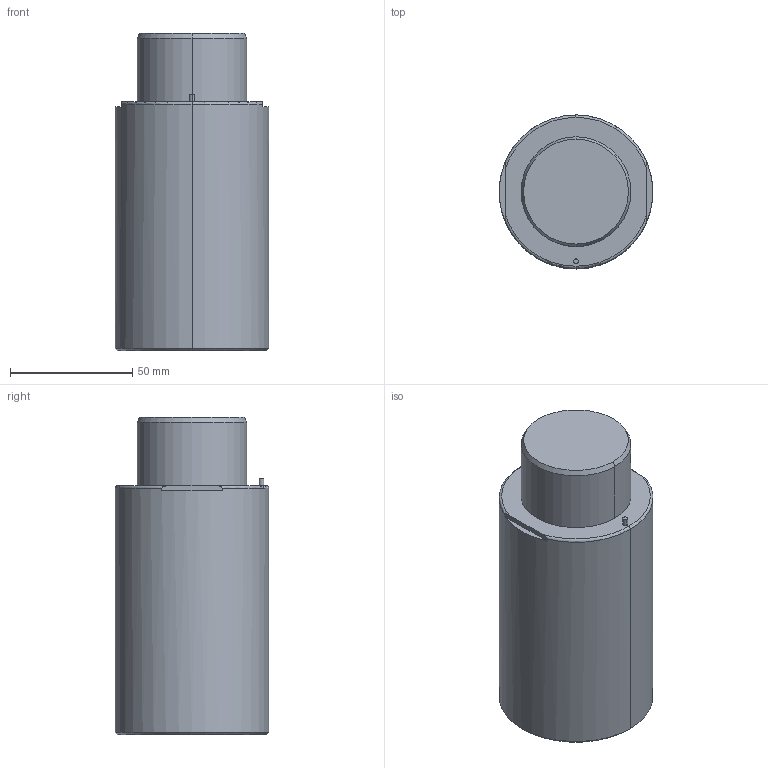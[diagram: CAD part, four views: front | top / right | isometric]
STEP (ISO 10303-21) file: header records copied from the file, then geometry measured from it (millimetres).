
FILE_DESCRIPTION(/* description */ (''),/* implementation_level */ '2;1');
FILE_NAME(/* name */ '3d_gsx63-25_03973_r00.stp',/* time_stamp */ '2011-01-10T14:15:12+09:00',/* author */ ('MISUMI'),/* organization */ (''),/* preprocessor_version */ 'ST-DEVELOPER v11',/* originating_system */ 'UGS - NX 5.0',/* authorisation */ '');
FILE_SCHEMA (('CONFIG_CONTROL_DESIGN'));
Length unit declared in the file: millimetre
Products named in the file (1): 3d_gsx63-25_03973_r00
Bounding box: 63 x 63 x 130 mm (x, y, z)
Volume: 358776.6 mm3; surface area: 31788.9 mm2
Topology: 1 solids, 1 shells, 59 faces, 130 edges, 78 vertices
Faces by surface type: cylinder 28, plane 15, cone 12, torus 4
Entity records: 1692 total; most frequent: DIRECTION 308, CARTESIAN_POINT 288, ORIENTED_EDGE 244, AXIS2_PLACEMENT_3D 130, EDGE_CURVE 122, VERTEX_POINT 78, EDGE_LOOP 72, CIRCLE 70
